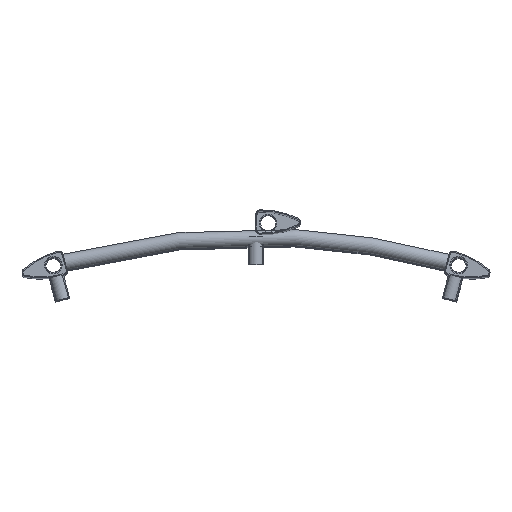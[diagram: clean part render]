
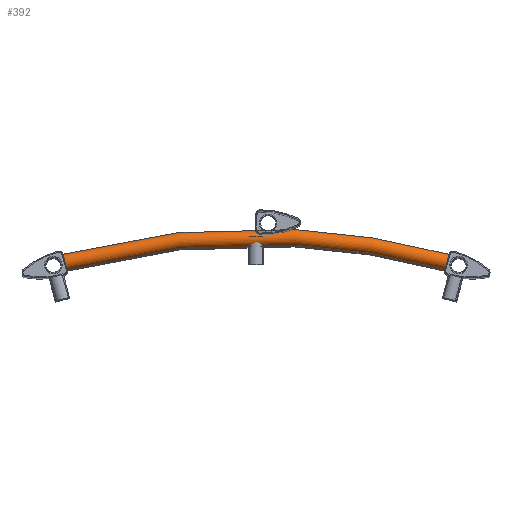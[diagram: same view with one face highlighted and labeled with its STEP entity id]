
A CAD part, top view. The second image highlights one B-rep face of the part: STEP entity #392.
In plain terms, the highlighted toroidal (fillet/blend) face has major radius 900.325 mm and minor radius 10 mm.
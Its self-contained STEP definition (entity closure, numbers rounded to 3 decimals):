
#392 = ADVANCED_FACE( '', ( #542, #543 ), #544, .T. );
#542 = FACE_OUTER_BOUND( '', #644, .T. );
#543 = FACE_OUTER_BOUND( '', #645, .T. );
#544 = TOROIDAL_SURFACE( '', #646, 900.325, 10. );
#644 = EDGE_LOOP( '', ( #772 ) );
#645 = EDGE_LOOP( '', ( #773 ) );
#646 = AXIS2_PLACEMENT_3D( '', #774, #775, #776 );
#772 = ORIENTED_EDGE( '', *, *, #979, .F. );
#773 = ORIENTED_EDGE( '', *, *, #978, .T. );
#774 = CARTESIAN_POINT( '', ( 0., -900.325, 0. ) );
#775 = DIRECTION( '', ( 0., 0., -1. ) );
#776 = DIRECTION( '', ( -1., 0., 0. ) );
#978 = EDGE_CURVE( '', #1084, #1084, #1085, .F. );
#979 = EDGE_CURVE( '', #1086, #1086, #1087, .F. );
#1084 = VERTEX_POINT( '', #1138 );
#1085 = CIRCLE( '', #1139, 10. );
#1086 = VERTEX_POINT( '', #1140 );
#1087 = CIRCLE( '', #1141, 10. );
#1138 = CARTESIAN_POINT( '', ( -239.127, -21.969, 0. ) );
#1139 = AXIS2_PLACEMENT_3D( '', #1200, #1201, #1202 );
#1140 = CARTESIAN_POINT( '', ( 239.127, -21.969, 0. ) );
#1141 = AXIS2_PLACEMENT_3D( '', #1203, #1204, #1205 );
#1200 = CARTESIAN_POINT( '', ( -236.5, -31.617, 0. ) );
#1201 = DIRECTION( '', ( -0.965, -0.263, 0. ) );
#1202 = DIRECTION( '', ( -0.263, 0.965, 0. ) );
#1203 = CARTESIAN_POINT( '', ( 236.5, -31.617, 0. ) );
#1204 = DIRECTION( '', ( -0.965, 0.263, 0. ) );
#1205 = DIRECTION( '', ( 0.263, 0.965, 0. ) );
